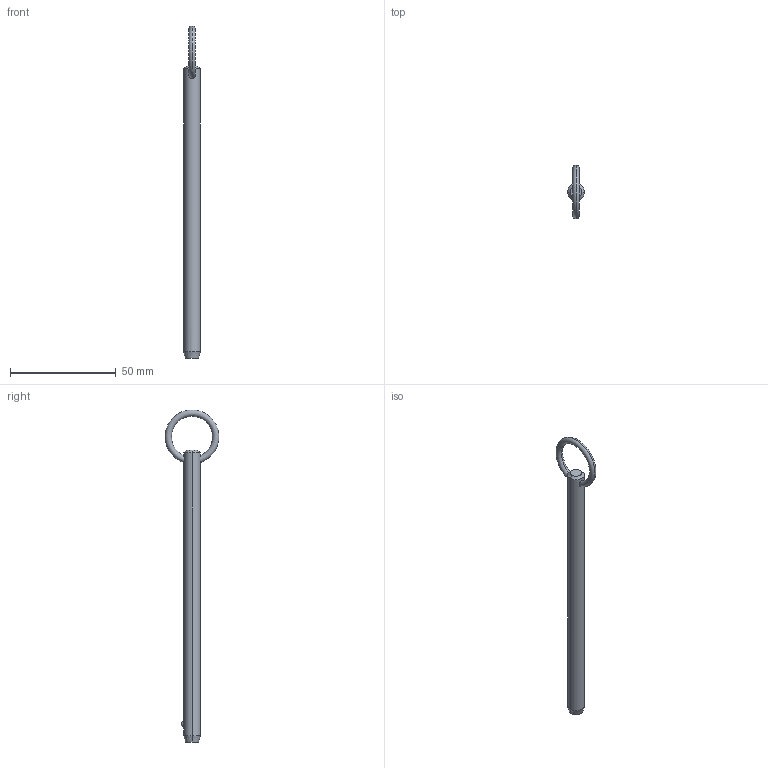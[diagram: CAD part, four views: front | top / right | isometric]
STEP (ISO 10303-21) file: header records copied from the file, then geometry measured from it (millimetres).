
FILE_DESCRIPTION (( 'STEP AP203' ), '1' );
FILE_NAME ('P1250.031-480.step', '2019-07-29T19:57:14', ( '' ), ( '' ), 'SwSTEP 2.0', 'SolidWorks 2017', '' );
FILE_SCHEMA (( 'CONFIG_CONTROL_DESIGN' ));
Length unit declared in the file: millimetre
Products named in the file (1): P1250.031-480
Bounding box: 7.93 x 25.36 x 156.81 mm (x, y, z)
Volume: 7204.9 mm3; surface area: 4067.6 mm2
Topology: 1 solids, 1 shells, 12 faces, 28 edges, 17 vertices
Faces by surface type: cone 4, torus 2, sphere 2, cylinder 2, plane 2
Entity records: 509 total; most frequent: CARTESIAN_POINT 176, DIRECTION 56, ORIENTED_EDGE 48, AXIS2_PLACEMENT_3D 25, EDGE_CURVE 24, VERTEX_POINT 15, EDGE_LOOP 15, FACE_OUTER_BOUND 12
